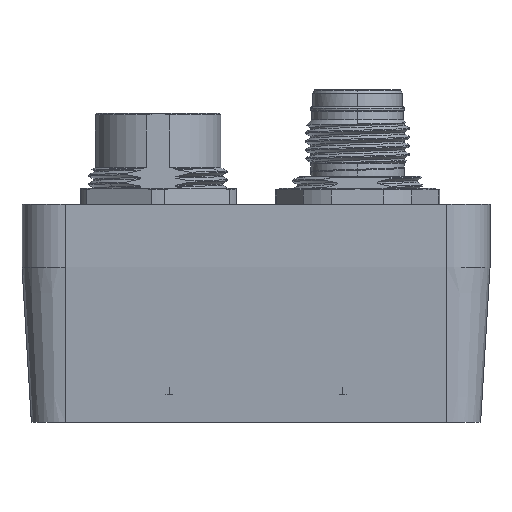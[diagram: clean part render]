
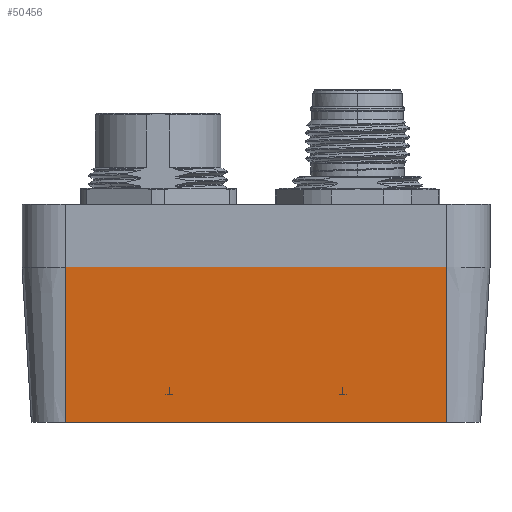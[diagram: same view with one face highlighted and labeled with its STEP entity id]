
A CAD part, left-side view. The second image highlights one B-rep face of the part: STEP entity #50456.
In plain terms, the highlighted planar face has unit normal (-0.998, 0, -0.06).
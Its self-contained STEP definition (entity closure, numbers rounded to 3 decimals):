
#543 = CARTESIAN_POINT ( 'NONE',  ( -50.918, -22., 0. ) ) ;
#2127 = ORIENTED_EDGE ( 'NONE', *, *, #32443, .T. ) ;
#2342 = VERTEX_POINT ( 'NONE', #543 ) ;
#2379 = VERTEX_POINT ( 'NONE', #41012 ) ;
#4034 = VERTEX_POINT ( 'NONE', #42128 ) ;
#6219 = DIRECTION ( 'NONE',  ( -0.998, 0., -0.06 ) ) ;
#7086 = DIRECTION ( 'NONE',  ( 0., -1., 0. ) ) ;
#7788 = VECTOR ( 'NONE', #7086, 1000. ) ;
#9384 = DIRECTION ( 'NONE',  ( -0.06, 0., 0.998 ) ) ;
#9888 = EDGE_LOOP ( 'NONE', ( #39496, #2127, #26535, #19656 ) ) ;
#14089 = CARTESIAN_POINT ( 'NONE',  ( -50.918, 0., 0. ) ) ;
#14682 = DIRECTION ( 'NONE',  ( -0.06, 0., 0.998 ) ) ;
#17422 = AXIS2_PLACEMENT_3D ( 'NONE', #30556, #6219, #9384 ) ;
#17692 = EDGE_CURVE ( 'NONE', #2379, #4034, #26298, .T. ) ;
#18117 = CARTESIAN_POINT ( 'NONE',  ( -50.918, -22., 0. ) ) ;
#18124 = FACE_OUTER_BOUND ( 'NONE', #9888, .T. ) ;
#18369 = LINE ( 'NONE', #18117, #24234 ) ;
#19656 = ORIENTED_EDGE ( 'NONE', *, *, #17692, .T. ) ;
#21164 = VERTEX_POINT ( 'NONE', #46748 ) ;
#21739 = LINE ( 'NONE', #14089, #37288 ) ;
#22864 = CARTESIAN_POINT ( 'NONE',  ( -50.918, 22., 0. ) ) ;
#24234 = VECTOR ( 'NONE', #14682, 1000. ) ;
#26298 = LINE ( 'NONE', #22864, #31007 ) ;
#26314 = PLANE ( 'NONE',  #17422 ) ;
#26535 = ORIENTED_EDGE ( 'NONE', *, *, #42320, .F. ) ;
#30208 = DIRECTION ( 'NONE',  ( 0., -1., 0. ) ) ;
#30556 = CARTESIAN_POINT ( 'NONE',  ( -50.918, 0., 0. ) ) ;
#31007 = VECTOR ( 'NONE', #42456, 1000. ) ;
#32443 = EDGE_CURVE ( 'NONE', #2342, #21164, #18369, .T. ) ;
#35891 = CARTESIAN_POINT ( 'NONE',  ( -52., 0., 17.9 ) ) ;
#37288 = VECTOR ( 'NONE', #30208, 1000. ) ;
#39031 = EDGE_CURVE ( 'NONE', #4034, #2342, #21739, .T. ) ;
#39496 = ORIENTED_EDGE ( 'NONE', *, *, #39031, .T. ) ;
#39878 = LINE ( 'NONE', #35891, #7788 ) ;
#41012 = CARTESIAN_POINT ( 'NONE',  ( -52., 22., 17.9 ) ) ;
#42128 = CARTESIAN_POINT ( 'NONE',  ( -50.918, 22., 0. ) ) ;
#42320 = EDGE_CURVE ( 'NONE', #2379, #21164, #39878, .T. ) ;
#42456 = DIRECTION ( 'NONE',  ( 0.06, 0., -0.998 ) ) ;
#46748 = CARTESIAN_POINT ( 'NONE',  ( -52., -22., 17.9 ) ) ;
#50456 = ADVANCED_FACE ( 'NONE', ( #18124 ), #26314, .T. ) ;
